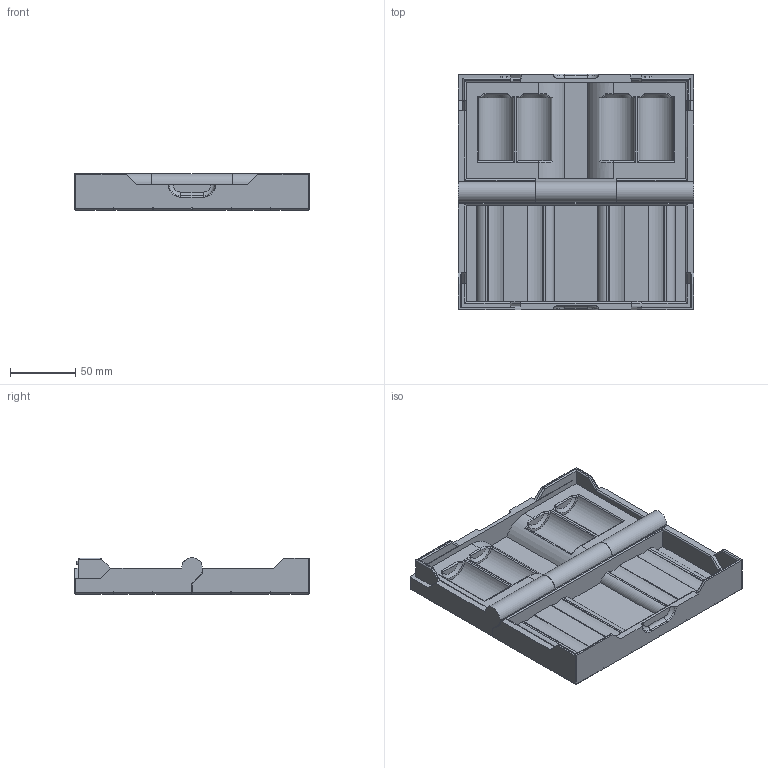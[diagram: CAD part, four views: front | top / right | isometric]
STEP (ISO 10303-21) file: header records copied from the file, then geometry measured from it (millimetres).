
FILE_DESCRIPTION(('HOOPS Exchange Step'),'2;1');
FILE_NAME('C:\Users\graig\Desktop\00 Projects\07 3D\Oshi\oshi case.stp','2026-07-01T08:54:21+01:00',('graig'),('Unknown organisation'),'HOOPS Exchange 2025.8','HOOPS Exchange','Unknown authorisation');
FILE_SCHEMA( ('AP203_CONFIGURATION_CONTROLLED_3D_DESIGN_OF_MECHANICAL_PARTS_AND_ASSEMBLIES_MIM_LF') );
Length unit declared in the file: millimetre
Products named in the file (1): root
Bounding box: 180 x 179.95 x 27.91 mm (x, y, z)
Volume: 362715.1 mm3; surface area: 113299.3 mm2
Topology: 2 solids, 2 shells, 449 faces, 1227 edges, 792 vertices
Faces by surface type: plane 287, cylinder 114, cone 16, torus 14, sphere 10, bspline 8
Entity records: 14781 total; most frequent: CARTESIAN_POINT 3401, ORIENTED_EDGE 2430, DIRECTION 2277, EDGE_CURVE 1215, VECTOR 897, LINE 897, VERTEX_POINT 792, AXIS2_PLACEMENT_3D 690
